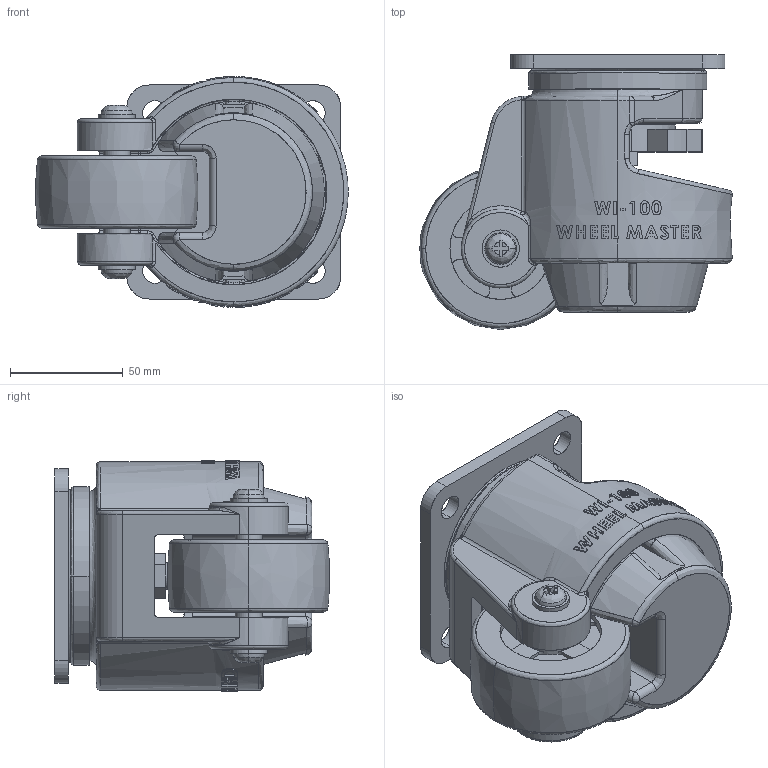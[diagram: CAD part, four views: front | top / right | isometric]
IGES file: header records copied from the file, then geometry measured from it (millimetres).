
Start section: SolidWorks IGES file using analytic representation for surfaces
Global section: file name: 2HK:\辫屈霖累诀\快老墨促肺弊(NEW)\权其捞瘤诀肺靛侩3D\WI100FP.IGS; native system: SolidWorks 2011; preprocessor: SolidWorks 2011; author: 俺惯何,,1; organization: 1; date: 110207.190046; units: millimetre
Bounding box: 138.66 x 122.11 x 102.5 mm (x, y, z)
Surface area: 138302.4 mm2 (no closed solid volume)
Topology: 0 solids, 0 shells, 770 faces, 10783 edges, 10769 vertices
Faces by surface type: bspline 539, revolution 231
